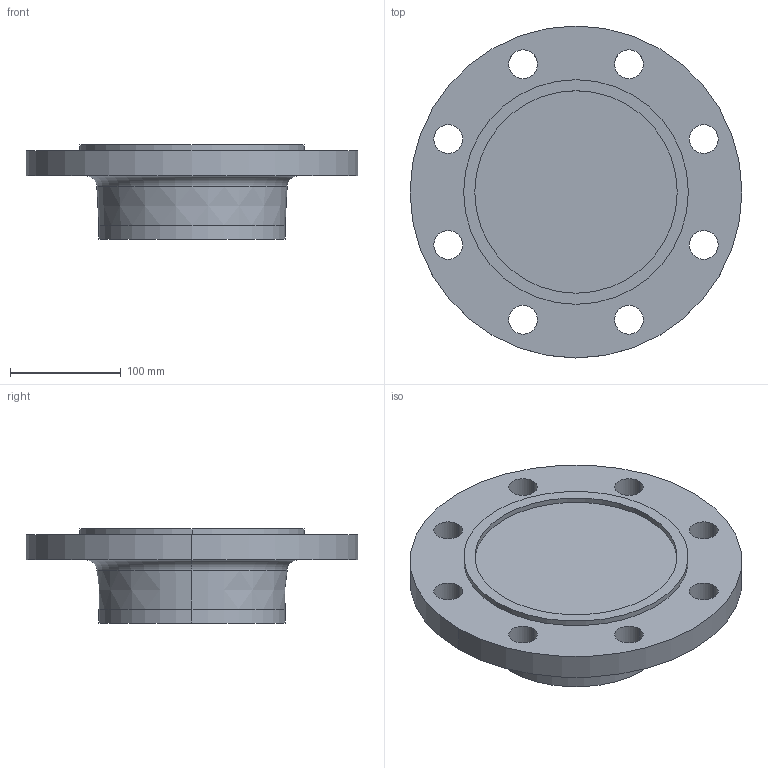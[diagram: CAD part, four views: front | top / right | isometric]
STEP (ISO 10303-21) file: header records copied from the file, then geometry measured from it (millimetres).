
FILE_DESCRIPTION (( 'STEP AP214' ), '1' );
FILE_NAME ('PN40 DN150 Type 21(ii) - Type C Face.STEP', '2019-01-02T23:17:52', ( '' ), ( '' ), 'SwSTEP 2.0', 'SolidWorks 2019', '' );
FILE_SCHEMA (( 'AUTOMOTIVE_DESIGN' ));
Length unit declared in the file: millimetre
Products named in the file (1): PN40 DN150 Type 21(ii) - Type C Face
Bounding box: 300 x 300 x 85 mm (x, y, z)
Volume: 2865207.9 mm3; surface area: 202863.1 mm2
Topology: 1 solids, 1 shells, 35 faces, 84 edges, 54 vertices
Faces by surface type: cylinder 24, plane 5, torus 4, cone 2
Entity records: 1114 total; most frequent: DIRECTION 214, CARTESIAN_POINT 174, ORIENTED_EDGE 168, AXIS2_PLACEMENT_3D 94, EDGE_CURVE 84, CIRCLE 58, VERTEX_POINT 54, EDGE_LOOP 54
